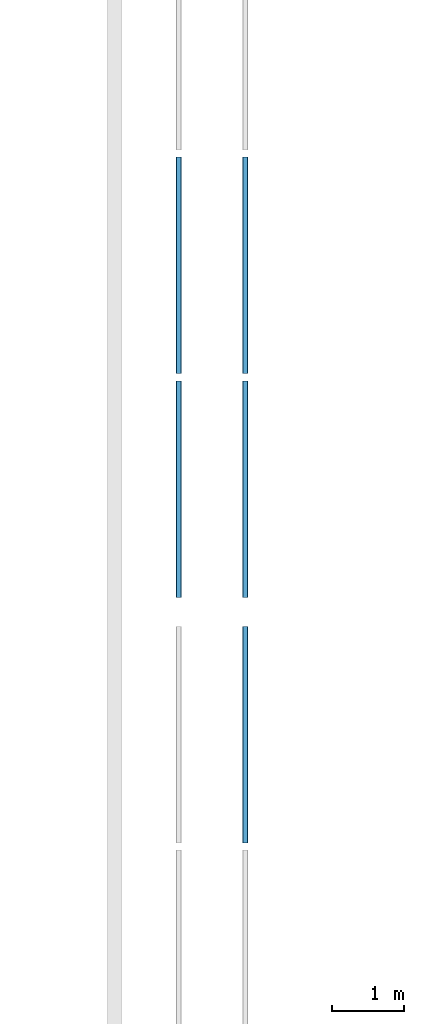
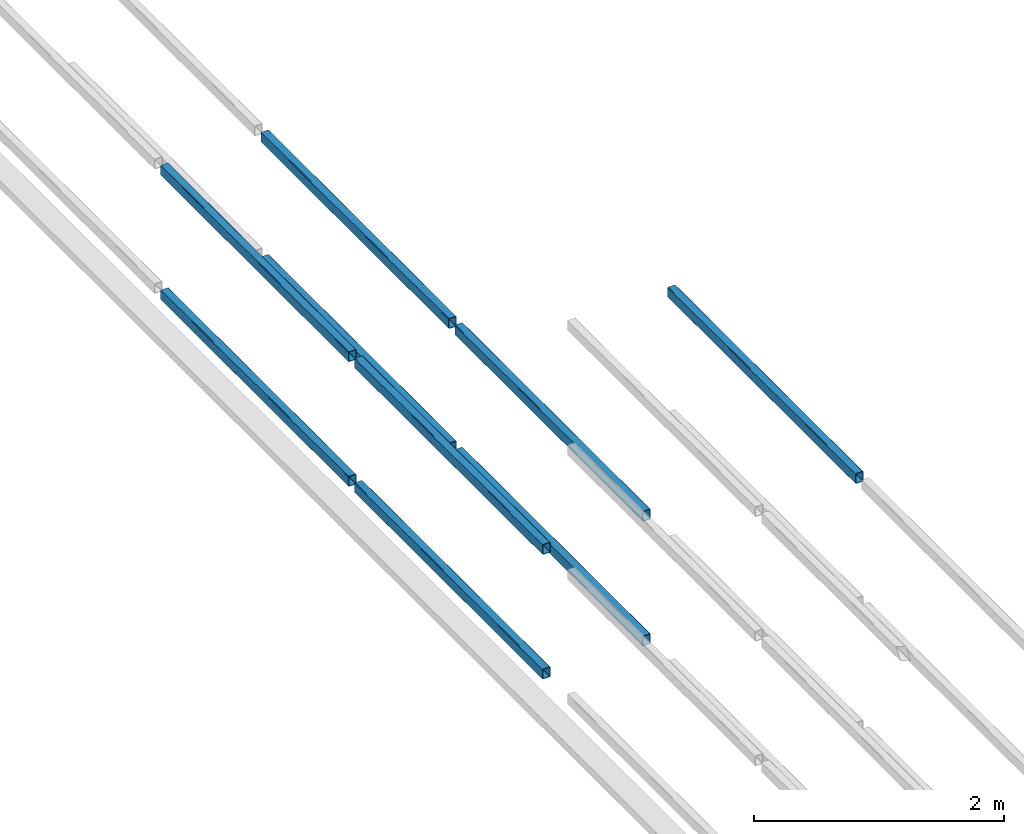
# One storey, part 17 of 290: 9 beams.
"""IFC2X3 building model written with IfcOpenShell, lengths in metres."""

from ifc_helpers import new_model, entity, si_unit, converted_unit, derived_unit, direction, frame, frame_2d, origin, place, context, subcontext, project, spatial, polyline, circle_curve, parameter, trimmed, segment, composite_curve, outline, extrude, material, type_object, element, save


model = new_model("IFC2X3")

# Units and contexts
model_context = context("Model", 3, precision=1e-05, world=origin(), true_north=direction((6.12303176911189e-17, 1.0)))
body_context = subcontext(model_context, "Body", "Model", "MODEL_VIEW")
ifc_project = project(units=[si_unit("LENGTHUNIT", "METRE"), si_unit("AREAUNIT", "SQUARE_METRE"), si_unit("VOLUMEUNIT", "CUBIC_METRE"), converted_unit("PLANEANGLEUNIT", "DEGREE", entity("IfcRatioMeasure", 0.0174532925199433), si_unit("PLANEANGLEUNIT", "RADIAN"), dimensions=[0, 0, 0, 0, 0, 0, 0]), si_unit("MASSUNIT", "GRAM", prefix="KILO"), derived_unit("MASSDENSITYUNIT", [(si_unit("MASSUNIT", "GRAM", prefix="KILO"), 1), (si_unit("LENGTHUNIT", "METRE"), -3)]), derived_unit("MOMENTOFINERTIAUNIT", [(si_unit("LENGTHUNIT", "METRE"), 4)]), si_unit("TIMEUNIT", "SECOND"), si_unit("FREQUENCYUNIT", "HERTZ"), si_unit("THERMODYNAMICTEMPERATUREUNIT", "DEGREE_CELSIUS"), derived_unit("THERMALTRANSMITTANCEUNIT", [(si_unit("MASSUNIT", "GRAM", prefix="KILO"), 1), (si_unit("THERMODYNAMICTEMPERATUREUNIT", "KELVIN"), -1), (si_unit("TIMEUNIT", "SECOND"), -3)]), derived_unit("VOLUMETRICFLOWRATEUNIT", [(si_unit("LENGTHUNIT", "METRE"), 3), (si_unit("TIMEUNIT", "SECOND"), -1)]), si_unit("ELECTRICCURRENTUNIT", "AMPERE"), si_unit("ELECTRICVOLTAGEUNIT", "VOLT"), si_unit("POWERUNIT", "WATT"), si_unit("FORCEUNIT", "NEWTON", prefix="KILO"), si_unit("ILLUMINANCEUNIT", "LUX"), si_unit("LUMINOUSFLUXUNIT", "LUMEN"), si_unit("LUMINOUSINTENSITYUNIT", "CANDELA"), derived_unit("USERDEFINED", [(si_unit("MASSUNIT", "GRAM", prefix="KILO"), -1), (si_unit("LENGTHUNIT", "METRE"), -2), (si_unit("TIMEUNIT", "SECOND"), 3), (si_unit("LUMINOUSFLUXUNIT", "LUMEN"), 1)]), derived_unit("LINEARVELOCITYUNIT", [(si_unit("LENGTHUNIT", "METRE"), 1), (si_unit("TIMEUNIT", "SECOND"), -1)]), si_unit("PRESSUREUNIT", "PASCAL"), derived_unit("USERDEFINED", [(si_unit("LENGTHUNIT", "METRE"), -2), (si_unit("MASSUNIT", "GRAM", prefix="KILO"), 1), (si_unit("TIMEUNIT", "SECOND"), -2)]), derived_unit("LINEARFORCEUNIT", [(si_unit("MASSUNIT", "GRAM", prefix="KILO"), 1), (si_unit("LENGTHUNIT", "METRE"), 1), (si_unit("TIMEUNIT", "SECOND"), -2), (si_unit("LENGTHUNIT", "METRE"), -1)]), derived_unit("PLANARFORCEUNIT", [(si_unit("MASSUNIT", "GRAM", prefix="KILO"), 1), (si_unit("LENGTHUNIT", "METRE"), 1), (si_unit("TIMEUNIT", "SECOND"), -2), (si_unit("LENGTHUNIT", "METRE"), -2)])], contexts=[model_context])

# Site, building, storey
site_placement = place(None, origin())
site = spatial("IfcSite", under=ifc_project, at=site_placement, Name="Default", CompositionType="ELEMENT")
building_placement = place(site_placement, origin())
building = spatial("IfcBuilding", under=site, at=building_placement, CompositionType="ELEMENT")
storey_placement = place(building_placement, frame((0.0, 0.0, 4.0)))
storey = spatial("IfcBuildingStorey", under=building, at=storey_placement, Name="01_OG", CompositionType="ELEMENT", Elevation=4.0)

# Beams
ifc_material = material(Name="Metall - Baustahl S235 blau")
beam_type = type_object("IfcBeamType", Name="RHS Träger (EN 10219-2):RHS 100 x 75 x 5", PredefinedType="NOTDEFINED")
beam_1_placement = place(storey_placement, frame((-206.415111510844, 58.448088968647, -1.2), z_axis=(0.0, 0.0, 1.0), x_axis=(0.0, 1.0, 0.0)))
element("IfcBeam", 1, at=beam_1_placement, inside=storey, type_object=beam_type, material=ifc_material, Name="RHS Träger (EN 10219-2):RHS 100 x 75 x 5", ObjectType="RHS Träger (EN 10219-2):RHS 100 x 75 x 5", context=body_context, shape_type="SweptSolid", body=[
    extrude(outline(composite_curve([segment(trimmed(circle_curve(frame_2d((-0.0274999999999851, -0.0400000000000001), x_axis=(1.0, 0.0)), 0.01), [parameter(180.0)], [parameter(270.0)], True, "PARAMETER"), True, "CONTINUOUS"), segment(polyline([(-0.0274999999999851, -0.05), (0.0274999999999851, -0.05)]), True, "CONTINUOUS"), segment(trimmed(circle_curve(frame_2d((0.0274999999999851, -0.0400000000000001), x_axis=(1.0, 0.0)), 0.01), [parameter(270.0)], [parameter(5.08888749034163e-14)], True, "PARAMETER"), True, "CONTINUOUS"), segment(polyline([(0.0375000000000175, -0.0400000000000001), (0.0375000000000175, 0.0400000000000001)]), True, "CONTINUOUS"), segment(trimmed(circle_curve(frame_2d((0.0274999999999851, 0.0400000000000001), x_axis=(1.0, 0.0)), 0.01), [parameter(360.0)], [parameter(89.9999999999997)], True, "PARAMETER"), True, "CONTINUOUS"), segment(polyline([(0.0274999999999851, 0.05), (-0.0274999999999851, 0.05)]), True, "CONTINUOUS"), segment(trimmed(circle_curve(frame_2d((-0.0274999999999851, 0.0400000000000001), x_axis=(1.0, 0.0)), 0.01), [parameter(90.0000000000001)], [parameter(180.0)], True, "PARAMETER"), True, "CONTINUOUS"), segment(polyline([(-0.0374999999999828, 0.0400000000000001), (-0.0374999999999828, -0.0400000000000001)]), True, "CONTINUOUS")], self_intersect=False), holes=[composite_curve([segment(polyline([(0.0274999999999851, -0.0450000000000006), (-0.0274999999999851, -0.0450000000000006)]), True, "CONTINUOUS"), segment(trimmed(circle_curve(frame_2d((-0.0274999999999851, -0.0400000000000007), x_axis=(1.0, 0.0)), 0.005), [parameter(180.0)], [parameter(270.0)], True, "PARAMETER"), False, "CONTINUOUS"), segment(polyline([(-0.0325000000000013, -0.0400000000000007), (-0.0325000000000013, 0.039999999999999)]), True, "CONTINUOUS"), segment(trimmed(circle_curve(frame_2d((-0.0274999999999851, 0.039999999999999), x_axis=(1.0, 0.0)), 0.005), [parameter(90.0000000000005)], [parameter(180.0)], True, "PARAMETER"), False, "CONTINUOUS"), segment(polyline([(-0.0274999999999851, 0.044999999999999), (0.0274999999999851, 0.044999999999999)]), True, "CONTINUOUS"), segment(trimmed(circle_curve(frame_2d((0.0274999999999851, 0.039999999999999), x_axis=(1.0, 0.0)), 0.005), [parameter(0.0)], [parameter(90.0000000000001)], True, "PARAMETER"), False, "CONTINUOUS"), segment(polyline([(0.0325000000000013, 0.039999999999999), (0.0325000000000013, -0.0400000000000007)]), True, "CONTINUOUS"), segment(trimmed(circle_curve(frame_2d((0.0274999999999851, -0.0400000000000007), x_axis=(1.0, 0.0)), 0.005), [parameter(270.0)], [parameter(4.07110999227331e-13)], True, "PARAMETER"), False, "CONTINUOUS")], self_intersect=False)]), frame((0.000100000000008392, 0.0375000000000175, -0.0500000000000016), z_axis=(1.0, 0.0, 0.0), x_axis=(0.0, -1.0, 0.0)), (0.0, 0.0, 1.0), 2.99979999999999),
])
beam_2_placement = place(storey_placement, frame((-205.565111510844, 58.448088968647, -1.2), z_axis=(0.0, 0.0, 1.0), x_axis=(0.0, 1.0, 0.0)))
element("IfcBeam", 2, at=beam_2_placement, inside=storey, type_object=beam_type, material=ifc_material, Name="RHS Träger (EN 10219-2):RHS 100 x 75 x 5", ObjectType="RHS Träger (EN 10219-2):RHS 100 x 75 x 5", context=body_context, shape_type="SweptSolid", body=[
    extrude(outline(composite_curve([segment(polyline([(-0.0400000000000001, -0.0374999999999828), (0.0400000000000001, -0.0374999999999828)]), True, "CONTINUOUS"), segment(trimmed(circle_curve(frame_2d((0.0400000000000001, -0.0274999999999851), x_axis=(0.0, 1.0)), 0.01), [parameter(180.0)], [parameter(270.0)], True, "PARAMETER"), True, "CONTINUOUS"), segment(polyline([(0.05, -0.0274999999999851), (0.05, 0.0274999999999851)]), True, "CONTINUOUS"), segment(trimmed(circle_curve(frame_2d((0.0400000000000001, 0.0274999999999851), x_axis=(0.0, 1.0)), 0.01), [parameter(270.0)], [parameter(4.07110999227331e-13)], True, "PARAMETER"), True, "CONTINUOUS"), segment(polyline([(0.0400000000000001, 0.0375000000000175), (-0.0400000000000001, 0.0375000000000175)]), True, "CONTINUOUS"), segment(trimmed(circle_curve(frame_2d((-0.0400000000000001, 0.0274999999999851), x_axis=(0.0, 1.0)), 0.01), [parameter(360.0)], [parameter(90.0000000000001)], True, "PARAMETER"), True, "CONTINUOUS"), segment(polyline([(-0.05, 0.0274999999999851), (-0.05, -0.0274999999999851)]), True, "CONTINUOUS"), segment(trimmed(circle_curve(frame_2d((-0.0400000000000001, -0.0274999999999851), x_axis=(0.0, 1.0)), 0.01), [parameter(90.0000000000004)], [parameter(180.0)], True, "PARAMETER"), True, "CONTINUOUS")], self_intersect=False), holes=[composite_curve([segment(trimmed(circle_curve(frame_2d((-0.0400000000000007, 0.0274999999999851), x_axis=(0.0, 1.0)), 0.005), [parameter(360.0)], [parameter(89.9999999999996)], True, "PARAMETER"), False, "CONTINUOUS"), segment(polyline([(-0.0400000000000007, 0.0325000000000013), (0.039999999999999, 0.0325000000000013)]), True, "CONTINUOUS"), segment(trimmed(circle_curve(frame_2d((0.039999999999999, 0.0274999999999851), x_axis=(0.0, 1.0)), 0.005), [parameter(270.0)], [parameter(0.0)], True, "PARAMETER"), False, "CONTINUOUS"), segment(polyline([(0.044999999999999, 0.0274999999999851), (0.044999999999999, -0.0274999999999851)]), True, "CONTINUOUS"), segment(trimmed(circle_curve(frame_2d((0.039999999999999, -0.0274999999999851), x_axis=(0.0, 1.0)), 0.005), [parameter(180.0)], [parameter(269.999999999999)], True, "PARAMETER"), False, "CONTINUOUS"), segment(polyline([(0.039999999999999, -0.0325000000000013), (-0.0400000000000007, -0.0325000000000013)]), True, "CONTINUOUS"), segment(trimmed(circle_curve(frame_2d((-0.0400000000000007, -0.0274999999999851), x_axis=(0.0, 1.0)), 0.005), [parameter(90.0000000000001)], [parameter(180.0)], True, "PARAMETER"), False, "CONTINUOUS"), segment(polyline([(-0.0450000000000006, -0.0274999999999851), (-0.0450000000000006, 0.0274999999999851)]), True, "CONTINUOUS")], self_intersect=False)]), frame((9.99999999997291e-05, -0.0375000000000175, -0.0500000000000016), z_axis=(1.0, 0.0, 0.0), x_axis=(0.0, 0.0, -1.0)), (0.0, 0.0, 1.0), 2.99979999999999),
])
beam_3_placement = place(storey_placement, frame((-206.415111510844, 55.348088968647, -1.2), z_axis=(0.0, 0.0, 1.0), x_axis=(0.0, 1.0, 0.0)))
element("IfcBeam", 3, at=beam_3_placement, inside=storey, type_object=beam_type, material=ifc_material, Name="RHS Träger (EN 10219-2):RHS 100 x 75 x 5", ObjectType="RHS Träger (EN 10219-2):RHS 100 x 75 x 5", context=body_context, shape_type="SweptSolid", body=[
    extrude(outline(composite_curve([segment(trimmed(circle_curve(frame_2d((-0.0274999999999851, -0.0400000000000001), x_axis=(1.0, 0.0)), 0.01), [parameter(180.0)], [parameter(270.0)], True, "PARAMETER"), True, "CONTINUOUS"), segment(polyline([(-0.0274999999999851, -0.05), (0.0274999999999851, -0.05)]), True, "CONTINUOUS"), segment(trimmed(circle_curve(frame_2d((0.0274999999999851, -0.0400000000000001), x_axis=(1.0, 0.0)), 0.01), [parameter(270.0)], [parameter(5.08888749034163e-14)], True, "PARAMETER"), True, "CONTINUOUS"), segment(polyline([(0.0375000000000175, -0.0400000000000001), (0.0375000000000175, 0.0400000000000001)]), True, "CONTINUOUS"), segment(trimmed(circle_curve(frame_2d((0.0274999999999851, 0.0400000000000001), x_axis=(1.0, 0.0)), 0.01), [parameter(360.0)], [parameter(89.9999999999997)], True, "PARAMETER"), True, "CONTINUOUS"), segment(polyline([(0.0274999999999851, 0.05), (-0.0274999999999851, 0.05)]), True, "CONTINUOUS"), segment(trimmed(circle_curve(frame_2d((-0.0274999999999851, 0.0400000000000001), x_axis=(1.0, 0.0)), 0.01), [parameter(90.0000000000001)], [parameter(180.0)], True, "PARAMETER"), True, "CONTINUOUS"), segment(polyline([(-0.0374999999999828, 0.0400000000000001), (-0.0374999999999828, -0.0400000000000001)]), True, "CONTINUOUS")], self_intersect=False), holes=[composite_curve([segment(polyline([(0.0274999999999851, -0.0450000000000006), (-0.0274999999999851, -0.0450000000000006)]), True, "CONTINUOUS"), segment(trimmed(circle_curve(frame_2d((-0.0274999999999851, -0.0400000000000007), x_axis=(1.0, 0.0)), 0.005), [parameter(180.0)], [parameter(270.0)], True, "PARAMETER"), False, "CONTINUOUS"), segment(polyline([(-0.0325000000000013, -0.0400000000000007), (-0.0325000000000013, 0.039999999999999)]), True, "CONTINUOUS"), segment(trimmed(circle_curve(frame_2d((-0.0274999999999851, 0.039999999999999), x_axis=(1.0, 0.0)), 0.005), [parameter(90.0000000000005)], [parameter(180.0)], True, "PARAMETER"), False, "CONTINUOUS"), segment(polyline([(-0.0274999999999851, 0.044999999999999), (0.0274999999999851, 0.044999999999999)]), True, "CONTINUOUS"), segment(trimmed(circle_curve(frame_2d((0.0274999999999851, 0.039999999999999), x_axis=(1.0, 0.0)), 0.005), [parameter(0.0)], [parameter(90.0000000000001)], True, "PARAMETER"), False, "CONTINUOUS"), segment(polyline([(0.0325000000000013, 0.039999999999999), (0.0325000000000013, -0.0400000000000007)]), True, "CONTINUOUS"), segment(trimmed(circle_curve(frame_2d((0.0274999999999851, -0.0400000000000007), x_axis=(1.0, 0.0)), 0.005), [parameter(270.0)], [parameter(4.07110999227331e-13)], True, "PARAMETER"), False, "CONTINUOUS")], self_intersect=False)]), frame((9.99999999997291e-05, 0.0375000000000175, -0.0500000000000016), z_axis=(1.0, 0.0, 0.0), x_axis=(0.0, -1.0, 0.0)), (0.0, 0.0, 1.0), 2.99979999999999),
])
beam_4_placement = place(storey_placement, frame((-205.565111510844, 55.348088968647, -1.2), z_axis=(0.0, 0.0, 1.0), x_axis=(0.0, 1.0, 0.0)))
element("IfcBeam", 4, at=beam_4_placement, inside=storey, type_object=beam_type, material=ifc_material, Name="RHS Träger (EN 10219-2):RHS 100 x 75 x 5", ObjectType="RHS Träger (EN 10219-2):RHS 100 x 75 x 5", context=body_context, shape_type="SweptSolid", body=[
    extrude(outline(composite_curve([segment(polyline([(-0.0400000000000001, -0.0374999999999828), (0.0400000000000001, -0.0374999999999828)]), True, "CONTINUOUS"), segment(trimmed(circle_curve(frame_2d((0.0400000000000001, -0.0274999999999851), x_axis=(0.0, 1.0)), 0.01), [parameter(180.0)], [parameter(270.0)], True, "PARAMETER"), True, "CONTINUOUS"), segment(polyline([(0.05, -0.0274999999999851), (0.05, 0.0274999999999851)]), True, "CONTINUOUS"), segment(trimmed(circle_curve(frame_2d((0.0400000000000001, 0.0274999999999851), x_axis=(0.0, 1.0)), 0.01), [parameter(270.0)], [parameter(4.07110999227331e-13)], True, "PARAMETER"), True, "CONTINUOUS"), segment(polyline([(0.0400000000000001, 0.0375000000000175), (-0.0400000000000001, 0.0375000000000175)]), True, "CONTINUOUS"), segment(trimmed(circle_curve(frame_2d((-0.0400000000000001, 0.0274999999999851), x_axis=(0.0, 1.0)), 0.01), [parameter(360.0)], [parameter(90.0000000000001)], True, "PARAMETER"), True, "CONTINUOUS"), segment(polyline([(-0.05, 0.0274999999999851), (-0.05, -0.0274999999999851)]), True, "CONTINUOUS"), segment(trimmed(circle_curve(frame_2d((-0.0400000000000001, -0.0274999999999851), x_axis=(0.0, 1.0)), 0.01), [parameter(90.0000000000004)], [parameter(180.0)], True, "PARAMETER"), True, "CONTINUOUS")], self_intersect=False), holes=[composite_curve([segment(trimmed(circle_curve(frame_2d((-0.0400000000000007, 0.0274999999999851), x_axis=(0.0, 1.0)), 0.005), [parameter(360.0)], [parameter(89.9999999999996)], True, "PARAMETER"), False, "CONTINUOUS"), segment(polyline([(-0.0400000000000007, 0.0325000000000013), (0.039999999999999, 0.0325000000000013)]), True, "CONTINUOUS"), segment(trimmed(circle_curve(frame_2d((0.039999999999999, 0.0274999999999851), x_axis=(0.0, 1.0)), 0.005), [parameter(270.0)], [parameter(0.0)], True, "PARAMETER"), False, "CONTINUOUS"), segment(polyline([(0.044999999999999, 0.0274999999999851), (0.044999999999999, -0.0274999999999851)]), True, "CONTINUOUS"), segment(trimmed(circle_curve(frame_2d((0.039999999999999, -0.0274999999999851), x_axis=(0.0, 1.0)), 0.005), [parameter(180.0)], [parameter(269.999999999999)], True, "PARAMETER"), False, "CONTINUOUS"), segment(polyline([(0.039999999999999, -0.0325000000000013), (-0.0400000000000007, -0.0325000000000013)]), True, "CONTINUOUS"), segment(trimmed(circle_curve(frame_2d((-0.0400000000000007, -0.0274999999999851), x_axis=(0.0, 1.0)), 0.005), [parameter(90.0000000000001)], [parameter(180.0)], True, "PARAMETER"), False, "CONTINUOUS"), segment(polyline([(-0.0450000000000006, -0.0274999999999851), (-0.0450000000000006, 0.0274999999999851)]), True, "CONTINUOUS")], self_intersect=False)]), frame((9.99999999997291e-05, -0.0375000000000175, -0.0500000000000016), z_axis=(1.0, 0.0, 0.0), x_axis=(0.0, 0.0, -1.0)), (0.0, 0.0, 1.0), 2.99979999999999),
])
beam_5_placement = place(storey_placement, frame((-206.415111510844, 58.448088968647, 0.0150000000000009), z_axis=(0.0, 0.0, 1.0), x_axis=(0.0, 1.0, 0.0)))
element("IfcBeam", 5, at=beam_5_placement, inside=storey, type_object=beam_type, material=ifc_material, Name="RHS Träger (EN 10219-2):RHS 100 x 75 x 5", ObjectType="RHS Träger (EN 10219-2):RHS 100 x 75 x 5", context=body_context, shape_type="SweptSolid", body=[
    extrude(outline(composite_curve([segment(trimmed(circle_curve(frame_2d((-0.0274999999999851, -0.0400000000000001), x_axis=(1.0, 0.0)), 0.01), [parameter(180.0)], [parameter(270.0)], True, "PARAMETER"), True, "CONTINUOUS"), segment(polyline([(-0.0274999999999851, -0.05), (0.0274999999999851, -0.05)]), True, "CONTINUOUS"), segment(trimmed(circle_curve(frame_2d((0.0274999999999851, -0.0400000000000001), x_axis=(1.0, 0.0)), 0.01), [parameter(270.0)], [parameter(5.08888749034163e-14)], True, "PARAMETER"), True, "CONTINUOUS"), segment(polyline([(0.0375000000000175, -0.0400000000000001), (0.0375000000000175, 0.0400000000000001)]), True, "CONTINUOUS"), segment(trimmed(circle_curve(frame_2d((0.0274999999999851, 0.0400000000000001), x_axis=(1.0, 0.0)), 0.01), [parameter(360.0)], [parameter(89.9999999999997)], True, "PARAMETER"), True, "CONTINUOUS"), segment(polyline([(0.0274999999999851, 0.05), (-0.0274999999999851, 0.05)]), True, "CONTINUOUS"), segment(trimmed(circle_curve(frame_2d((-0.0274999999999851, 0.0400000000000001), x_axis=(1.0, 0.0)), 0.01), [parameter(90.0000000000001)], [parameter(180.0)], True, "PARAMETER"), True, "CONTINUOUS"), segment(polyline([(-0.0374999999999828, 0.0400000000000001), (-0.0374999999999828, -0.0400000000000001)]), True, "CONTINUOUS")], self_intersect=False), holes=[composite_curve([segment(polyline([(0.0274999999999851, -0.0450000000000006), (-0.0274999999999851, -0.0450000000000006)]), True, "CONTINUOUS"), segment(trimmed(circle_curve(frame_2d((-0.0274999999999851, -0.0400000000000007), x_axis=(1.0, 0.0)), 0.005), [parameter(180.0)], [parameter(270.0)], True, "PARAMETER"), False, "CONTINUOUS"), segment(polyline([(-0.0325000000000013, -0.0400000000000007), (-0.0325000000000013, 0.039999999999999)]), True, "CONTINUOUS"), segment(trimmed(circle_curve(frame_2d((-0.0274999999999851, 0.039999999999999), x_axis=(1.0, 0.0)), 0.005), [parameter(90.0000000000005)], [parameter(180.0)], True, "PARAMETER"), False, "CONTINUOUS"), segment(polyline([(-0.0274999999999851, 0.044999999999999), (0.0274999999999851, 0.044999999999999)]), True, "CONTINUOUS"), segment(trimmed(circle_curve(frame_2d((0.0274999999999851, 0.039999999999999), x_axis=(1.0, 0.0)), 0.005), [parameter(0.0)], [parameter(90.0000000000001)], True, "PARAMETER"), False, "CONTINUOUS"), segment(polyline([(0.0325000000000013, 0.039999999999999), (0.0325000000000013, -0.0400000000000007)]), True, "CONTINUOUS"), segment(trimmed(circle_curve(frame_2d((0.0274999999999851, -0.0400000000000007), x_axis=(1.0, 0.0)), 0.005), [parameter(270.0)], [parameter(4.07110999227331e-13)], True, "PARAMETER"), False, "CONTINUOUS")], self_intersect=False)]), frame((0.000100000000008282, 0.0375000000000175, -0.0500000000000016), z_axis=(1.0, 0.0, 0.0), x_axis=(0.0, -1.0, 0.0)), (0.0, 0.0, 1.0), 2.99979999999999),
])
beam_6_placement = place(storey_placement, frame((-205.565111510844, 58.448088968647, 0.0150000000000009), z_axis=(0.0, 0.0, 1.0), x_axis=(0.0, 1.0, 0.0)))
element("IfcBeam", 6, at=beam_6_placement, inside=storey, type_object=beam_type, material=ifc_material, Name="RHS Träger (EN 10219-2):RHS 100 x 75 x 5", ObjectType="RHS Träger (EN 10219-2):RHS 100 x 75 x 5", context=body_context, shape_type="SweptSolid", body=[
    extrude(outline(composite_curve([segment(polyline([(-0.0400000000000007, -0.0374999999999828), (0.0399999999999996, -0.0374999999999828)]), True, "CONTINUOUS"), segment(trimmed(circle_curve(frame_2d((0.0399999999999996, -0.0274999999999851), x_axis=(0.0, 1.0)), 0.01), [parameter(180.0)], [parameter(270.0)], True, "PARAMETER"), True, "CONTINUOUS"), segment(polyline([(0.0499999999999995, -0.0274999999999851), (0.0499999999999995, 0.0274999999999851)]), True, "CONTINUOUS"), segment(trimmed(circle_curve(frame_2d((0.0399999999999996, 0.0274999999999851), x_axis=(0.0, 1.0)), 0.01), [parameter(270.0)], [parameter(4.07110999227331e-13)], True, "PARAMETER"), True, "CONTINUOUS"), segment(polyline([(0.0399999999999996, 0.0375000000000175), (-0.0400000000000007, 0.0375000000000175)]), True, "CONTINUOUS"), segment(trimmed(circle_curve(frame_2d((-0.0400000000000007, 0.0274999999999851), x_axis=(0.0, 1.0)), 0.01), [parameter(360.0)], [parameter(90.0000000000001)], True, "PARAMETER"), True, "CONTINUOUS"), segment(polyline([(-0.0500000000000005, 0.0274999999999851), (-0.0500000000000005, -0.0274999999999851)]), True, "CONTINUOUS"), segment(trimmed(circle_curve(frame_2d((-0.0400000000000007, -0.0274999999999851), x_axis=(0.0, 1.0)), 0.01), [parameter(90.0000000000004)], [parameter(180.0)], True, "PARAMETER"), True, "CONTINUOUS")], self_intersect=False), holes=[composite_curve([segment(trimmed(circle_curve(frame_2d((-0.0400000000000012, 0.0274999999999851), x_axis=(0.0, 1.0)), 0.005), [parameter(360.0)], [parameter(89.9999999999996)], True, "PARAMETER"), False, "CONTINUOUS"), segment(polyline([(-0.0400000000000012, 0.0325000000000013), (0.0399999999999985, 0.0325000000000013)]), True, "CONTINUOUS"), segment(trimmed(circle_curve(frame_2d((0.0399999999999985, 0.0274999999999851), x_axis=(0.0, 1.0)), 0.005), [parameter(270.0)], [parameter(0.0)], True, "PARAMETER"), False, "CONTINUOUS"), segment(polyline([(0.0449999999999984, 0.0274999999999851), (0.0449999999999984, -0.0274999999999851)]), True, "CONTINUOUS"), segment(trimmed(circle_curve(frame_2d((0.0399999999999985, -0.0274999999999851), x_axis=(0.0, 1.0)), 0.005), [parameter(180.0)], [parameter(269.999999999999)], True, "PARAMETER"), False, "CONTINUOUS"), segment(polyline([(0.0399999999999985, -0.0325000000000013), (-0.0400000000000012, -0.0325000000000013)]), True, "CONTINUOUS"), segment(trimmed(circle_curve(frame_2d((-0.0400000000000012, -0.0274999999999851), x_axis=(0.0, 1.0)), 0.005), [parameter(90.0000000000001)], [parameter(180.0)], True, "PARAMETER"), False, "CONTINUOUS"), segment(polyline([(-0.0450000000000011, -0.0274999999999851), (-0.0450000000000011, 0.0274999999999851)]), True, "CONTINUOUS")], self_intersect=False)]), frame((9.99999999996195e-05, -0.0375000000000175, -0.0500000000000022), z_axis=(1.0, 0.0, 0.0), x_axis=(0.0, 0.0, -1.0)), (0.0, 0.0, 1.0), 2.99979999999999),
])
beam_7_placement = place(storey_placement, frame((-206.415111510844, 55.348088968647, 0.0150000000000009), z_axis=(0.0, 0.0, 1.0), x_axis=(0.0, 1.0, 0.0)))
element("IfcBeam", 7, at=beam_7_placement, inside=storey, type_object=beam_type, material=ifc_material, Name="RHS Träger (EN 10219-2):RHS 100 x 75 x 5", ObjectType="RHS Träger (EN 10219-2):RHS 100 x 75 x 5", context=body_context, shape_type="SweptSolid", body=[
    extrude(outline(composite_curve([segment(trimmed(circle_curve(frame_2d((-0.0274999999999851, -0.0400000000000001), x_axis=(1.0, 0.0)), 0.01), [parameter(180.0)], [parameter(270.0)], True, "PARAMETER"), True, "CONTINUOUS"), segment(polyline([(-0.0274999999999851, -0.05), (0.0274999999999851, -0.05)]), True, "CONTINUOUS"), segment(trimmed(circle_curve(frame_2d((0.0274999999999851, -0.0400000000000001), x_axis=(1.0, 0.0)), 0.01), [parameter(270.0)], [parameter(5.08888749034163e-14)], True, "PARAMETER"), True, "CONTINUOUS"), segment(polyline([(0.0375000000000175, -0.0400000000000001), (0.0375000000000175, 0.0400000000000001)]), True, "CONTINUOUS"), segment(trimmed(circle_curve(frame_2d((0.0274999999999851, 0.0400000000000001), x_axis=(1.0, 0.0)), 0.01), [parameter(360.0)], [parameter(89.9999999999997)], True, "PARAMETER"), True, "CONTINUOUS"), segment(polyline([(0.0274999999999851, 0.05), (-0.0274999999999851, 0.05)]), True, "CONTINUOUS"), segment(trimmed(circle_curve(frame_2d((-0.0274999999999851, 0.0400000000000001), x_axis=(1.0, 0.0)), 0.01), [parameter(90.0000000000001)], [parameter(180.0)], True, "PARAMETER"), True, "CONTINUOUS"), segment(polyline([(-0.0374999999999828, 0.0400000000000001), (-0.0374999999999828, -0.0400000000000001)]), True, "CONTINUOUS")], self_intersect=False), holes=[composite_curve([segment(polyline([(0.0274999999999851, -0.0450000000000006), (-0.0274999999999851, -0.0450000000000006)]), True, "CONTINUOUS"), segment(trimmed(circle_curve(frame_2d((-0.0274999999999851, -0.0400000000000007), x_axis=(1.0, 0.0)), 0.005), [parameter(180.0)], [parameter(270.0)], True, "PARAMETER"), False, "CONTINUOUS"), segment(polyline([(-0.0325000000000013, -0.0400000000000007), (-0.0325000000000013, 0.039999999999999)]), True, "CONTINUOUS"), segment(trimmed(circle_curve(frame_2d((-0.0274999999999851, 0.039999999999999), x_axis=(1.0, 0.0)), 0.005), [parameter(90.0000000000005)], [parameter(180.0)], True, "PARAMETER"), False, "CONTINUOUS"), segment(polyline([(-0.0274999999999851, 0.044999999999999), (0.0274999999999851, 0.044999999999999)]), True, "CONTINUOUS"), segment(trimmed(circle_curve(frame_2d((0.0274999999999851, 0.039999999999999), x_axis=(1.0, 0.0)), 0.005), [parameter(0.0)], [parameter(90.0000000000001)], True, "PARAMETER"), False, "CONTINUOUS"), segment(polyline([(0.0325000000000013, 0.039999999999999), (0.0325000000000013, -0.0400000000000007)]), True, "CONTINUOUS"), segment(trimmed(circle_curve(frame_2d((0.0274999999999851, -0.0400000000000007), x_axis=(1.0, 0.0)), 0.005), [parameter(270.0)], [parameter(4.07110999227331e-13)], True, "PARAMETER"), False, "CONTINUOUS")], self_intersect=False)]), frame((9.99999999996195e-05, 0.0375000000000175, -0.0500000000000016), z_axis=(1.0, 0.0, 0.0), x_axis=(0.0, -1.0, 0.0)), (0.0, 0.0, 1.0), 2.99979999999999),
])
beam_8_placement = place(storey_placement, frame((-205.565111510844, 55.348088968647, 0.0150000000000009), z_axis=(0.0, 0.0, 1.0), x_axis=(0.0, 1.0, 0.0)))
element("IfcBeam", 8, at=beam_8_placement, inside=storey, type_object=beam_type, material=ifc_material, Name="RHS Träger (EN 10219-2):RHS 100 x 75 x 5", ObjectType="RHS Träger (EN 10219-2):RHS 100 x 75 x 5", context=body_context, shape_type="SweptSolid", body=[
    extrude(outline(composite_curve([segment(polyline([(-0.0400000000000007, -0.0374999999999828), (0.0399999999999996, -0.0374999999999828)]), True, "CONTINUOUS"), segment(trimmed(circle_curve(frame_2d((0.0399999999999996, -0.0274999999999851), x_axis=(0.0, 1.0)), 0.01), [parameter(180.0)], [parameter(270.0)], True, "PARAMETER"), True, "CONTINUOUS"), segment(polyline([(0.0499999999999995, -0.0274999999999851), (0.0499999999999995, 0.0274999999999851)]), True, "CONTINUOUS"), segment(trimmed(circle_curve(frame_2d((0.0399999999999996, 0.0274999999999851), x_axis=(0.0, 1.0)), 0.01), [parameter(270.0)], [parameter(4.07110999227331e-13)], True, "PARAMETER"), True, "CONTINUOUS"), segment(polyline([(0.0399999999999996, 0.0375000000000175), (-0.0400000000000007, 0.0375000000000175)]), True, "CONTINUOUS"), segment(trimmed(circle_curve(frame_2d((-0.0400000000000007, 0.0274999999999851), x_axis=(0.0, 1.0)), 0.01), [parameter(360.0)], [parameter(90.0000000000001)], True, "PARAMETER"), True, "CONTINUOUS"), segment(polyline([(-0.0500000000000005, 0.0274999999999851), (-0.0500000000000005, -0.0274999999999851)]), True, "CONTINUOUS"), segment(trimmed(circle_curve(frame_2d((-0.0400000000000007, -0.0274999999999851), x_axis=(0.0, 1.0)), 0.01), [parameter(90.0000000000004)], [parameter(180.0)], True, "PARAMETER"), True, "CONTINUOUS")], self_intersect=False), holes=[composite_curve([segment(trimmed(circle_curve(frame_2d((-0.0400000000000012, 0.0274999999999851), x_axis=(0.0, 1.0)), 0.005), [parameter(360.0)], [parameter(89.9999999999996)], True, "PARAMETER"), False, "CONTINUOUS"), segment(polyline([(-0.0400000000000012, 0.0325000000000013), (0.0399999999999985, 0.0325000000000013)]), True, "CONTINUOUS"), segment(trimmed(circle_curve(frame_2d((0.0399999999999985, 0.0274999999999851), x_axis=(0.0, 1.0)), 0.005), [parameter(270.0)], [parameter(0.0)], True, "PARAMETER"), False, "CONTINUOUS"), segment(polyline([(0.0449999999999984, 0.0274999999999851), (0.0449999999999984, -0.0274999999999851)]), True, "CONTINUOUS"), segment(trimmed(circle_curve(frame_2d((0.0399999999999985, -0.0274999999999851), x_axis=(0.0, 1.0)), 0.005), [parameter(180.0)], [parameter(269.999999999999)], True, "PARAMETER"), False, "CONTINUOUS"), segment(polyline([(0.0399999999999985, -0.0325000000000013), (-0.0400000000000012, -0.0325000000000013)]), True, "CONTINUOUS"), segment(trimmed(circle_curve(frame_2d((-0.0400000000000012, -0.0274999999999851), x_axis=(0.0, 1.0)), 0.005), [parameter(90.0000000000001)], [parameter(180.0)], True, "PARAMETER"), False, "CONTINUOUS"), segment(polyline([(-0.0450000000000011, -0.0274999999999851), (-0.0450000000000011, 0.0274999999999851)]), True, "CONTINUOUS")], self_intersect=False)]), frame((9.99999999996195e-05, -0.0375000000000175, -0.0500000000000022), z_axis=(1.0, 0.0, 0.0), x_axis=(0.0, 0.0, -1.0)), (0.0, 0.0, 1.0), 2.99979999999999),
])
beam_9_placement = place(storey_placement, frame((-205.565111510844, 51.948088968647, 2.445), z_axis=(0.0, 0.0, 1.0), x_axis=(0.0, 1.0, 0.0)))
element("IfcBeam", 9, at=beam_9_placement, inside=storey, type_object=beam_type, material=ifc_material, Name="RHS Träger (EN 10219-2):RHS 100 x 75 x 5", ObjectType="RHS Träger (EN 10219-2):RHS 100 x 75 x 5", context=body_context, shape_type="SweptSolid", body=[
    extrude(outline(composite_curve([segment(polyline([(-0.0399999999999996, -0.0374999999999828), (0.0399999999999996, -0.0374999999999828)]), True, "CONTINUOUS"), segment(trimmed(circle_curve(frame_2d((0.0399999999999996, -0.0274999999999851), x_axis=(0.0, 1.0)), 0.01), [parameter(180.0)], [parameter(270.0)], True, "PARAMETER"), True, "CONTINUOUS"), segment(polyline([(0.0500000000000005, -0.0274999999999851), (0.0500000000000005, 0.0274999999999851)]), True, "CONTINUOUS"), segment(trimmed(circle_curve(frame_2d((0.0399999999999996, 0.0274999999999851), x_axis=(0.0, 1.0)), 0.01), [parameter(270.0)], [parameter(4.07110999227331e-13)], True, "PARAMETER"), True, "CONTINUOUS"), segment(polyline([(0.0399999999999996, 0.0375000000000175), (-0.0399999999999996, 0.0375000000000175)]), True, "CONTINUOUS"), segment(trimmed(circle_curve(frame_2d((-0.0399999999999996, 0.0274999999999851), x_axis=(0.0, 1.0)), 0.01), [parameter(360.0)], [parameter(90.0000000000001)], True, "PARAMETER"), True, "CONTINUOUS"), segment(polyline([(-0.0499999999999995, 0.0274999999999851), (-0.0499999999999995, -0.0274999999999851)]), True, "CONTINUOUS"), segment(trimmed(circle_curve(frame_2d((-0.0399999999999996, -0.0274999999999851), x_axis=(0.0, 1.0)), 0.01), [parameter(90.0000000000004)], [parameter(180.0)], True, "PARAMETER"), True, "CONTINUOUS")], self_intersect=False), holes=[composite_curve([segment(trimmed(circle_curve(frame_2d((-0.0400000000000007, 0.0274999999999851), x_axis=(0.0, 1.0)), 0.005), [parameter(360.0)], [parameter(89.9999999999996)], True, "PARAMETER"), False, "CONTINUOUS"), segment(polyline([(-0.0400000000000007, 0.0325000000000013), (0.0399999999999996, 0.0325000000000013)]), True, "CONTINUOUS"), segment(trimmed(circle_curve(frame_2d((0.0399999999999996, 0.0274999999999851), x_axis=(0.0, 1.0)), 0.005), [parameter(270.0)], [parameter(0.0)], True, "PARAMETER"), False, "CONTINUOUS"), segment(polyline([(0.0449999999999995, 0.0274999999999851), (0.0449999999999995, -0.0274999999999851)]), True, "CONTINUOUS"), segment(trimmed(circle_curve(frame_2d((0.0399999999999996, -0.0274999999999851), x_axis=(0.0, 1.0)), 0.005), [parameter(180.0)], [parameter(269.999999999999)], True, "PARAMETER"), False, "CONTINUOUS"), segment(polyline([(0.0399999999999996, -0.0325000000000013), (-0.0400000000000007, -0.0325000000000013)]), True, "CONTINUOUS"), segment(trimmed(circle_curve(frame_2d((-0.0400000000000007, -0.0274999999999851), x_axis=(0.0, 1.0)), 0.005), [parameter(90.0000000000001)], [parameter(180.0)], True, "PARAMETER"), False, "CONTINUOUS"), segment(polyline([(-0.0450000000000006, -0.0274999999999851), (-0.0450000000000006, 0.0274999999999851)]), True, "CONTINUOUS")], self_intersect=False)]), frame((9.99999999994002e-05, -0.0375000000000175, -0.0500000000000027), z_axis=(1.0, 0.0, 0.0), x_axis=(0.0, 0.0, -1.0)), (0.0, 0.0, 1.0), 2.99979999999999),
])

save(model, "model.ifc")
